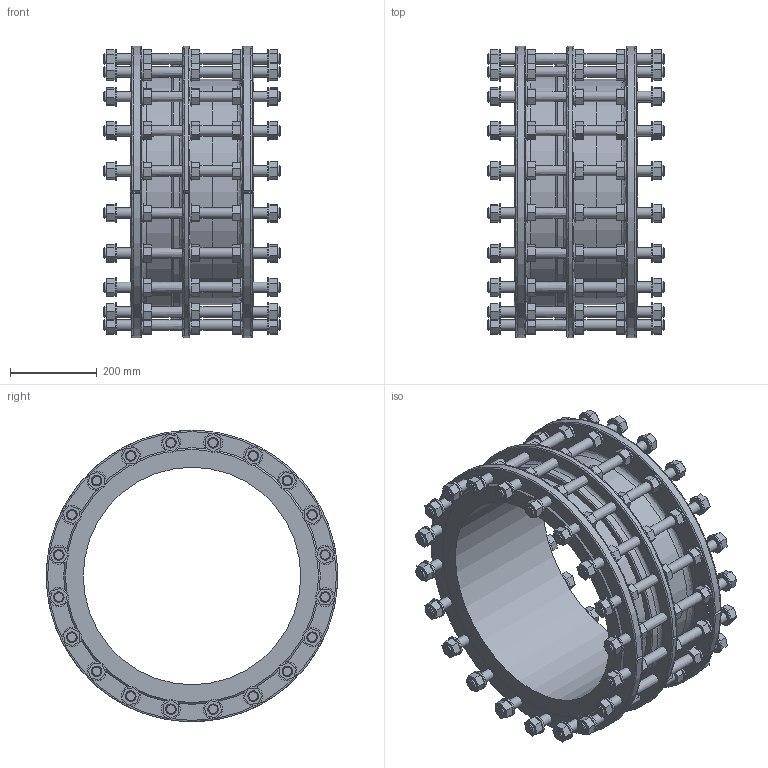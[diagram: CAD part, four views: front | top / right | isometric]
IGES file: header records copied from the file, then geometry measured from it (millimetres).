
Start section: SolidWorks IGES file using analytic representation for surfaces
Global section: file name: \\avksan2\techshare\PBM outline export from Enovia\O_265_911_DN500_0XXXXX01_L=285_REV01.igs; native system: SolidWorks 2022; preprocessor: SolidWorks 2022; author: pbm; date: 241212.091040; units: millimetre
Bounding box: 405 x 669.97 x 670 mm (x, y, z)
Surface area: 2405081.3 mm2 (no closed solid volume)
Topology: 0 solids, 0 shells, 1250 faces, 5681 edges, 5370 vertices
Faces by surface type: bspline 959, revolution 291
